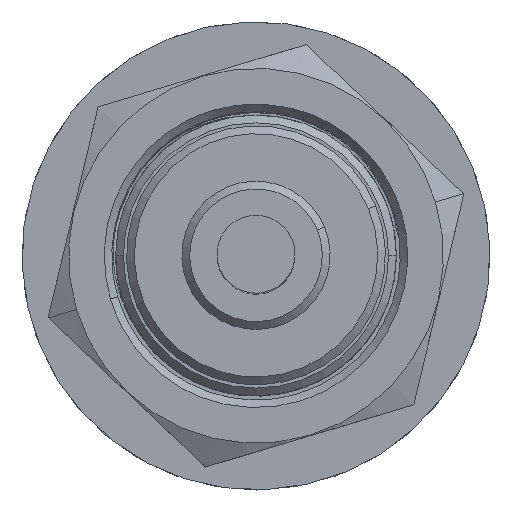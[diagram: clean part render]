
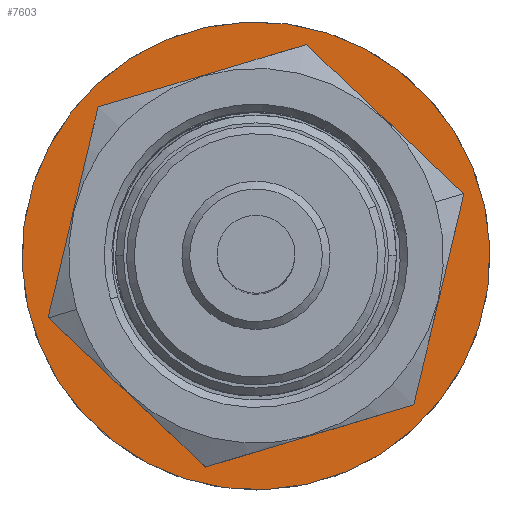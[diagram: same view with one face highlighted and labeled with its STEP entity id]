
A CAD part, top view. The second image highlights one B-rep face of the part: STEP entity #7603.
In plain terms, the highlighted planar face has unit normal (0, 0, 1) as drawn and (0, 1, 0) by its records, which use the part's own axes.
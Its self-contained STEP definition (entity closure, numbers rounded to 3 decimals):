
#826 = ORIENTED_EDGE ( 'NONE', *, *, #3453, .F. ) ;
#1655 = FACE_OUTER_BOUND ( 'NONE', #3226, .T. ) ;
#2639 = DIRECTION ( 'NONE',  ( 0., 1., 0. ) ) ;
#2820 = CARTESIAN_POINT ( 'NONE',  ( 0., 1., 0. ) ) ;
#3226 = EDGE_LOOP ( 'NONE', ( #15142, #4452 ) ) ;
#3366 = VERTEX_POINT ( 'NONE', #5649 ) ;
#3453 = EDGE_CURVE ( 'NONE', #7548, #11108, #4325, .T. ) ;
#3654 = CARTESIAN_POINT ( 'NONE',  ( 0., 1., 0. ) ) ;
#3679 = CARTESIAN_POINT ( 'NONE',  ( 0., 1., 10. ) ) ;
#3734 = DIRECTION ( 'NONE',  ( 0., 0., 1. ) ) ;
#3997 = PLANE ( 'NONE',  #9957 ) ;
#4325 = CIRCLE ( 'NONE', #9049, 10. ) ;
#4452 = ORIENTED_EDGE ( 'NONE', *, *, #13720, .T. ) ;
#4512 = CIRCLE ( 'NONE', #7252, 10. ) ;
#4697 = CARTESIAN_POINT ( 'NONE',  ( 0., 1., 0. ) ) ;
#4894 = CARTESIAN_POINT ( 'NONE',  ( 0., 1., 15. ) ) ;
#5625 = CARTESIAN_POINT ( 'NONE',  ( 0., 1., 0. ) ) ;
#5649 = CARTESIAN_POINT ( 'NONE',  ( 0., 1., -15. ) ) ;
#6748 = EDGE_LOOP ( 'NONE', ( #826, #14576 ) ) ;
#7252 = AXIS2_PLACEMENT_3D ( 'NONE', #3654, #2639, #3734 ) ;
#7548 = VERTEX_POINT ( 'NONE', #8662 ) ;
#7603 = ADVANCED_FACE ( 'NONE', ( #1655, #7804 ), #3997, .T. ) ;
#7804 = FACE_BOUND ( 'NONE', #6748, .T. ) ;
#8268 = DIRECTION ( 'NONE',  ( 0., 0., 1. ) ) ;
#8444 = VERTEX_POINT ( 'NONE', #4894 ) ;
#8662 = CARTESIAN_POINT ( 'NONE',  ( 0., 1., -10. ) ) ;
#8718 = DIRECTION ( 'NONE',  ( 0., 0., 1. ) ) ;
#9049 = AXIS2_PLACEMENT_3D ( 'NONE', #4697, #10924, #8268 ) ;
#9180 = DIRECTION ( 'NONE',  ( 0., 0., 1. ) ) ;
#9957 = AXIS2_PLACEMENT_3D ( 'NONE', #2820, #13632, #12313 ) ;
#9988 = CIRCLE ( 'NONE', #11983, 15. ) ;
#10010 = AXIS2_PLACEMENT_3D ( 'NONE', #5625, #11529, #9180 ) ;
#10503 = CIRCLE ( 'NONE', #10010, 15. ) ;
#10924 = DIRECTION ( 'NONE',  ( 0., 1., 0. ) ) ;
#11108 = VERTEX_POINT ( 'NONE', #3679 ) ;
#11529 = DIRECTION ( 'NONE',  ( 0., 1., 0. ) ) ;
#11983 = AXIS2_PLACEMENT_3D ( 'NONE', #14627, #13535, #8718 ) ;
#12192 = EDGE_CURVE ( 'NONE', #3366, #8444, #10503, .T. ) ;
#12313 = DIRECTION ( 'NONE',  ( 0., 0., 1. ) ) ;
#12606 = EDGE_CURVE ( 'NONE', #11108, #7548, #4512, .T. ) ;
#13535 = DIRECTION ( 'NONE',  ( 0., 1., 0. ) ) ;
#13632 = DIRECTION ( 'NONE',  ( 0., 1., 0. ) ) ;
#13720 = EDGE_CURVE ( 'NONE', #8444, #3366, #9988, .T. ) ;
#14576 = ORIENTED_EDGE ( 'NONE', *, *, #12606, .F. ) ;
#14627 = CARTESIAN_POINT ( 'NONE',  ( 0., 1., 0. ) ) ;
#15142 = ORIENTED_EDGE ( 'NONE', *, *, #12192, .T. ) ;
